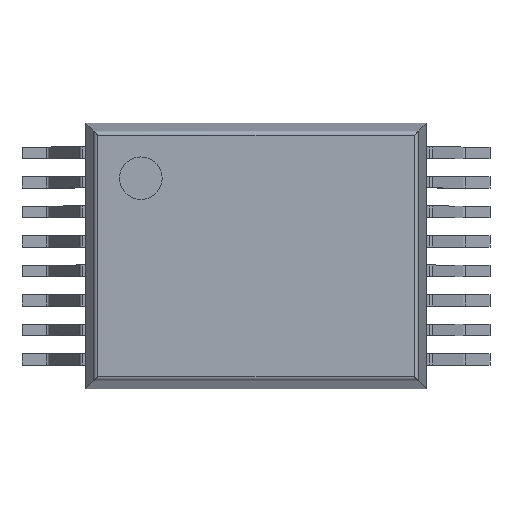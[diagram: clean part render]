
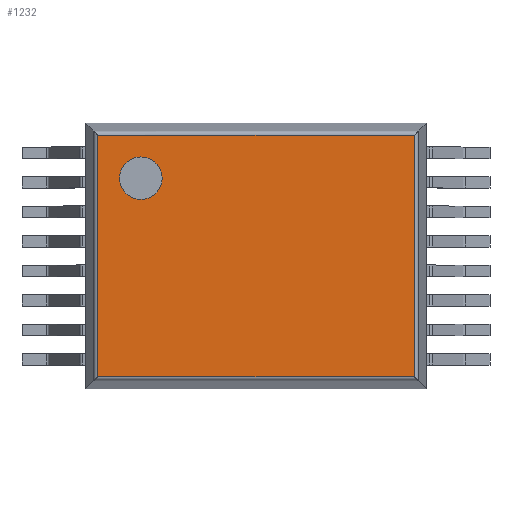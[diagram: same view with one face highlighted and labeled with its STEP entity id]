
A CAD part, top view. The second image highlights one B-rep face of the part: STEP entity #1232.
In plain terms, the highlighted planar face has unit normal (0, 0, 1).
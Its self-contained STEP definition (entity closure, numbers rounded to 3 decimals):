
#829 = CYLINDRICAL_SURFACE('',#830,0.09);
#830 = AXIS2_PLACEMENT_3D('',#831,#832,#833);
#831 = CARTESIAN_POINT('',(-3.485,-2.738,2.51));
#832 = DIRECTION('',(0.,1.,0.));
#833 = DIRECTION('',(-0.989,0.,0.15));
#971 = CYLINDRICAL_SURFACE('',#972,0.09);
#972 = AXIS2_PLACEMENT_3D('',#973,#974,#975);
#973 = CARTESIAN_POINT('',(-3.563,-2.66,2.51));
#974 = DIRECTION('',(1.,0.,0.));
#975 = DIRECTION('',(0.,-0.989,0.15));
#987 = VERTEX_POINT('',#988);
#988 = CARTESIAN_POINT('',(-3.485,-2.66,2.6));
#1022 = EDGE_CURVE('',#987,#1023,#1025,.T.);
#1023 = VERTEX_POINT('',#1024);
#1024 = CARTESIAN_POINT('',(-3.485,2.66,2.6));
#1025 = SURFACE_CURVE('',#1026,(#1030,#1037),.PCURVE_S1.);
#1026 = LINE('',#1027,#1028);
#1027 = CARTESIAN_POINT('',(-3.485,-2.738,2.6));
#1028 = VECTOR('',#1029,1.);
#1029 = DIRECTION('',(0.,1.,0.));
#1030 = PCURVE('',#829,#1031);
#1031 = DEFINITIONAL_REPRESENTATION('',(#1032),#1036);
#1032 = LINE('',#1033,#1034);
#1033 = CARTESIAN_POINT('',(1.42,0.));
#1034 = VECTOR('',#1035,1.);
#1035 = DIRECTION('',(0.,1.));
#1036 = ( GEOMETRIC_REPRESENTATION_CONTEXT(2) 
PARAMETRIC_REPRESENTATION_CONTEXT() REPRESENTATION_CONTEXT('2D SPACE',''
  ) );
#1037 = PCURVE('',#1038,#1043);
#1038 = PLANE('',#1039);
#1039 = AXIS2_PLACEMENT_3D('',#1040,#1041,#1042);
#1040 = CARTESIAN_POINT('',(-3.75,-2.925,2.6));
#1041 = DIRECTION('',(0.,0.,1.));
#1042 = DIRECTION('',(1.,0.,0.));
#1043 = DEFINITIONAL_REPRESENTATION('',(#1044),#1048);
#1044 = LINE('',#1045,#1046);
#1045 = CARTESIAN_POINT('',(0.265,0.188));
#1046 = VECTOR('',#1047,1.);
#1047 = DIRECTION('',(0.,1.));
#1048 = ( GEOMETRIC_REPRESENTATION_CONTEXT(2) 
PARAMETRIC_REPRESENTATION_CONTEXT() REPRESENTATION_CONTEXT('2D SPACE',''
  ) );
#1071 = CYLINDRICAL_SURFACE('',#1072,0.09);
#1072 = AXIS2_PLACEMENT_3D('',#1073,#1074,#1075);
#1073 = CARTESIAN_POINT('',(-3.563,2.66,2.51));
#1074 = DIRECTION('',(1.,0.,0.));
#1075 = DIRECTION('',(0.,0.,1.));
#1159 = CYLINDRICAL_SURFACE('',#1160,0.09);
#1160 = AXIS2_PLACEMENT_3D('',#1161,#1162,#1163);
#1161 = CARTESIAN_POINT('',(3.485,-2.738,2.51));
#1162 = DIRECTION('',(0.,1.,0.));
#1163 = DIRECTION('',(0.,0.,1.));
#1175 = EDGE_CURVE('',#987,#1176,#1178,.T.);
#1176 = VERTEX_POINT('',#1177);
#1177 = CARTESIAN_POINT('',(3.485,-2.66,2.6));
#1178 = SURFACE_CURVE('',#1179,(#1183,#1190),.PCURVE_S1.);
#1179 = LINE('',#1180,#1181);
#1180 = CARTESIAN_POINT('',(-3.563,-2.66,2.6));
#1181 = VECTOR('',#1182,1.);
#1182 = DIRECTION('',(1.,0.,0.));
#1183 = PCURVE('',#971,#1184);
#1184 = DEFINITIONAL_REPRESENTATION('',(#1185),#1189);
#1185 = LINE('',#1186,#1187);
#1186 = CARTESIAN_POINT('',(-1.42,0.));
#1187 = VECTOR('',#1188,1.);
#1188 = DIRECTION('',(-0.,1.));
#1189 = ( GEOMETRIC_REPRESENTATION_CONTEXT(2) 
PARAMETRIC_REPRESENTATION_CONTEXT() REPRESENTATION_CONTEXT('2D SPACE',''
  ) );
#1190 = PCURVE('',#1038,#1191);
#1191 = DEFINITIONAL_REPRESENTATION('',(#1192),#1196);
#1192 = LINE('',#1193,#1194);
#1193 = CARTESIAN_POINT('',(0.188,0.265));
#1194 = VECTOR('',#1195,1.);
#1195 = DIRECTION('',(1.,0.));
#1196 = ( GEOMETRIC_REPRESENTATION_CONTEXT(2) 
PARAMETRIC_REPRESENTATION_CONTEXT() REPRESENTATION_CONTEXT('2D SPACE',''
  ) );
#1232 = ADVANCED_FACE('',(#1233,#1281),#1038,.T.);
#1233 = FACE_BOUND('',#1234,.T.);
#1234 = EDGE_LOOP('',(#1235,#1236,#1237,#1260));
#1235 = ORIENTED_EDGE('',*,*,#1022,.F.);
#1236 = ORIENTED_EDGE('',*,*,#1175,.T.);
#1237 = ORIENTED_EDGE('',*,*,#1238,.T.);
#1238 = EDGE_CURVE('',#1176,#1239,#1241,.T.);
#1239 = VERTEX_POINT('',#1240);
#1240 = CARTESIAN_POINT('',(3.485,2.66,2.6));
#1241 = SURFACE_CURVE('',#1242,(#1246,#1253),.PCURVE_S1.);
#1242 = LINE('',#1243,#1244);
#1243 = CARTESIAN_POINT('',(3.485,-2.738,2.6));
#1244 = VECTOR('',#1245,1.);
#1245 = DIRECTION('',(0.,1.,0.));
#1246 = PCURVE('',#1038,#1247);
#1247 = DEFINITIONAL_REPRESENTATION('',(#1248),#1252);
#1248 = LINE('',#1249,#1250);
#1249 = CARTESIAN_POINT('',(7.235,0.188));
#1250 = VECTOR('',#1251,1.);
#1251 = DIRECTION('',(0.,1.));
#1252 = ( GEOMETRIC_REPRESENTATION_CONTEXT(2) 
PARAMETRIC_REPRESENTATION_CONTEXT() REPRESENTATION_CONTEXT('2D SPACE',''
  ) );
#1253 = PCURVE('',#1159,#1254);
#1254 = DEFINITIONAL_REPRESENTATION('',(#1255),#1259);
#1255 = LINE('',#1256,#1257);
#1256 = CARTESIAN_POINT('',(0.,0.));
#1257 = VECTOR('',#1258,1.);
#1258 = DIRECTION('',(0.,1.));
#1259 = ( GEOMETRIC_REPRESENTATION_CONTEXT(2) 
PARAMETRIC_REPRESENTATION_CONTEXT() REPRESENTATION_CONTEXT('2D SPACE',''
  ) );
#1260 = ORIENTED_EDGE('',*,*,#1261,.F.);
#1261 = EDGE_CURVE('',#1023,#1239,#1262,.T.);
#1262 = SURFACE_CURVE('',#1263,(#1267,#1274),.PCURVE_S1.);
#1263 = LINE('',#1264,#1265);
#1264 = CARTESIAN_POINT('',(-3.563,2.66,2.6));
#1265 = VECTOR('',#1266,1.);
#1266 = DIRECTION('',(1.,0.,0.));
#1267 = PCURVE('',#1038,#1268);
#1268 = DEFINITIONAL_REPRESENTATION('',(#1269),#1273);
#1269 = LINE('',#1270,#1271);
#1270 = CARTESIAN_POINT('',(0.188,5.585));
#1271 = VECTOR('',#1272,1.);
#1272 = DIRECTION('',(1.,0.));
#1273 = ( GEOMETRIC_REPRESENTATION_CONTEXT(2) 
PARAMETRIC_REPRESENTATION_CONTEXT() REPRESENTATION_CONTEXT('2D SPACE',''
  ) );
#1274 = PCURVE('',#1071,#1275);
#1275 = DEFINITIONAL_REPRESENTATION('',(#1276),#1280);
#1276 = LINE('',#1277,#1278);
#1277 = CARTESIAN_POINT('',(-0.,0.));
#1278 = VECTOR('',#1279,1.);
#1279 = DIRECTION('',(-0.,1.));
#1280 = ( GEOMETRIC_REPRESENTATION_CONTEXT(2) 
PARAMETRIC_REPRESENTATION_CONTEXT() REPRESENTATION_CONTEXT('2D SPACE',''
  ) );
#1281 = FACE_BOUND('',#1282,.T.);
#1282 = EDGE_LOOP('',(#1283));
#1283 = ORIENTED_EDGE('',*,*,#1284,.F.);
#1284 = EDGE_CURVE('',#1285,#1285,#1287,.T.);
#1285 = VERTEX_POINT('',#1286);
#1286 = CARTESIAN_POINT('',(-2.066,1.71,2.6));
#1287 = SURFACE_CURVE('',#1288,(#1293,#1300),.PCURVE_S1.);
#1288 = CIRCLE('',#1289,0.469);
#1289 = AXIS2_PLACEMENT_3D('',#1290,#1291,#1292);
#1290 = CARTESIAN_POINT('',(-2.535,1.71,2.6));
#1291 = DIRECTION('',(0.,0.,1.));
#1292 = DIRECTION('',(1.,0.,0.));
#1293 = PCURVE('',#1038,#1294);
#1294 = DEFINITIONAL_REPRESENTATION('',(#1295),#1299);
#1295 = CIRCLE('',#1296,0.469);
#1296 = AXIS2_PLACEMENT_2D('',#1297,#1298);
#1297 = CARTESIAN_POINT('',(1.215,4.635));
#1298 = DIRECTION('',(1.,0.));
#1299 = ( GEOMETRIC_REPRESENTATION_CONTEXT(2) 
PARAMETRIC_REPRESENTATION_CONTEXT() REPRESENTATION_CONTEXT('2D SPACE',''
  ) );
#1300 = PCURVE('',#1301,#1306);
#1301 = CYLINDRICAL_SURFACE('',#1302,0.469);
#1302 = AXIS2_PLACEMENT_3D('',#1303,#1304,#1305);
#1303 = CARTESIAN_POINT('',(-2.535,1.71,2.34));
#1304 = DIRECTION('',(0.,0.,1.));
#1305 = DIRECTION('',(1.,0.,0.));
#1306 = DEFINITIONAL_REPRESENTATION('',(#1307),#1310);
#1307 = B_SPLINE_CURVE_WITH_KNOTS('',1,(#1308,#1309),.UNSPECIFIED.,.F.,
  .F.,(2,2),(0.,6.283),.PIECEWISE_BEZIER_KNOTS.);
#1308 = CARTESIAN_POINT('',(0.,0.26));
#1309 = CARTESIAN_POINT('',(6.283,0.26));
#1310 = ( GEOMETRIC_REPRESENTATION_CONTEXT(2) 
PARAMETRIC_REPRESENTATION_CONTEXT() REPRESENTATION_CONTEXT('2D SPACE',''
  ) );
